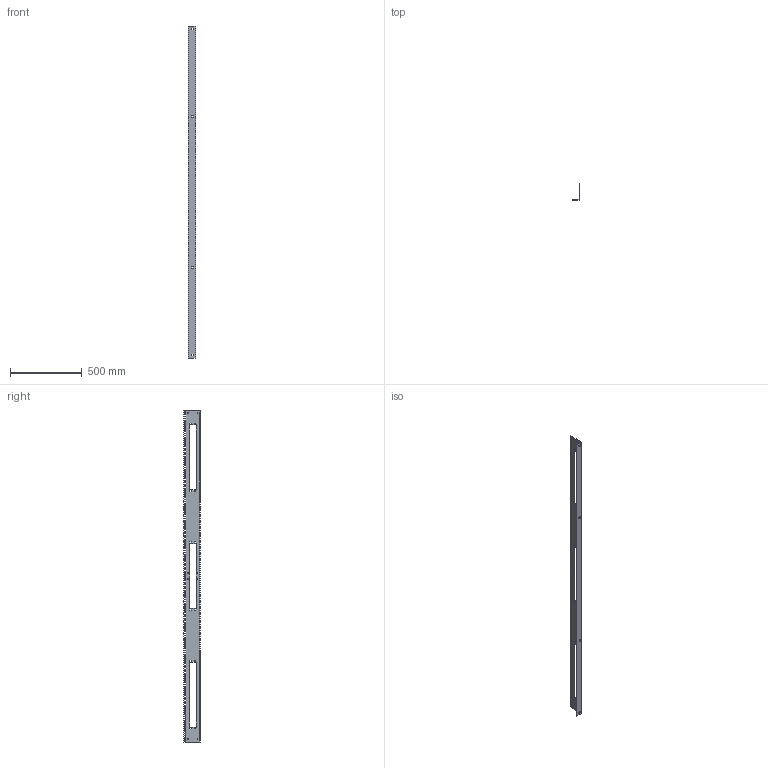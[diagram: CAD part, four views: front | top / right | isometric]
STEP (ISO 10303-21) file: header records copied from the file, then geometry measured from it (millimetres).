
FILE_DESCRIPTION(/* description */ ('Unknown'),/* implementation_level */ '2;1');
FILE_NAME(/* name */ 'H1SRR52U30BK',/* time_stamp */ '2021-03-16T13:23:00-04:00',/* author */ ('Unknown'),/* organization */ ('Unknown'),/* preprocessor_version */ 'ST-DEVELOPER v16.7',/* originating_system */ 'Solid Edge',/* authorisation */ 'Unknown');
FILE_SCHEMA (('TECHNICAL_DATA_PACKAGING','AUTOMOTIVE_DESIGN {1 0 10303 214 3 1 1}'));
Length unit declared in the file: millimetre
Products named in the file (1): COM57244-44LW
Bounding box: 50.8 x 111.61 x 2312.16 mm (x, y, z)
Volume: 702274.7 mm3; surface area: 617812.7 mm2
Topology: 1 solids, 1 shells, 841 faces, 2480 edges, 1656 vertices
Faces by surface type: plane 792, cylinder 38, bspline 11
Full cylindrical faces by diameter (mm): 4.496 x8
Entity records: 28558 total; most frequent: CARTESIAN_POINT 5573, ORIENTED_EDGE 4928, DIRECTION 4106, EDGE_CURVE 2464, LINE 2292, VECTOR 2292, VERTEX_POINT 1648, EDGE_LOOP 1230
